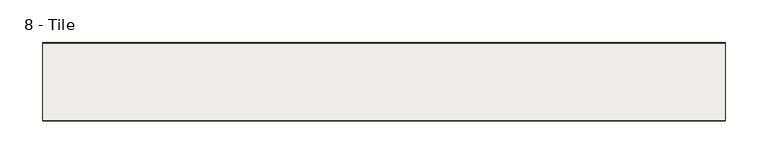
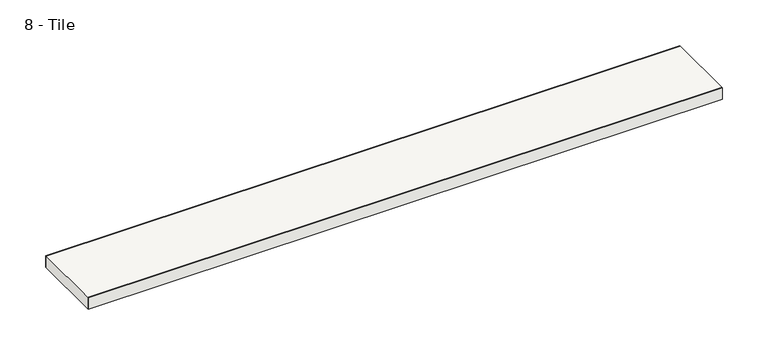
"""IFC4 building model written with IfcOpenShell, lengths in millimetres: covering geometry, Z_DO_NOT_USE_NLRS_PF_52_UN_Multi Grate_Easydrain : 8 - Tile."""

from ifc_helpers import new_model, si_unit, frame, origin, place, context, project, spatial, polyline, outline, extrude, source, transform, mapped, element, save


def covering_8_tile_f43c0e9c(model_context):
    return source(origin(), model_context, "Body", "SweptSolid", [
        extrude(outline(polyline([(399.0, 45.0), (399.0, -45.0), (-399.0, -45.0), (-399.0, 45.0), (399.0, 45.0)])), frame((0.0, 0.0, -15.0), z_axis=(0.0, 0.0, 1.0), x_axis=(1.0, 0.0, 0.0)), (0.0, 0.0, 1.0), 15.0),
        extrude(outline(polyline([(399.0, 46.0), (399.0, 45.0), (-399.0, 45.0), (-399.0, 46.0), (399.0, 46.0)])), frame((0.0, 0.0, -15.0), z_axis=(0.0, 0.0, 1.0), x_axis=(1.0, 0.0, 0.0)), (0.0, 0.0, 1.0), 15.0),
        extrude(outline(polyline([(399.0, -46.0), (-399.0, -46.0), (-399.0, -45.0), (399.0, -45.0), (399.0, -46.0)])), frame((0.0, 0.0, -15.0), z_axis=(0.0, 0.0, 1.0), x_axis=(1.0, 0.0, 0.0)), (0.0, 0.0, 1.0), 15.0),
    ])


if __name__ == "__main__":
    model = new_model("IFC4")
    model_context = context("Model", 3, world=origin())
    ifc_project = project(units=[si_unit("LENGTHUNIT", "METRE", prefix="MILLI")], contexts=[model_context])
    site = spatial("IfcSite", under=ifc_project)
    building = spatial("IfcBuilding", under=site)
    placement = place(None, origin())
    covering_8_tile_shape = covering_8_tile_f43c0e9c(model_context)
    element("IfcCovering", 1, ObjectType="Z_DO_NOT_USE_NLRS_PF_52_UN_Multi Grate_Easydrain : 8 - Tile", at=placement, inside=building, context=model_context, shape_type="MappedRepresentation", body=[
        mapped(covering_8_tile_shape, transform((0.0, 0.0, 0.0), x_axis=(1.0, 0.0, 0.0), y_axis=(0.0, 1.0, 0.0), z_axis=(0.0, 0.0, 1.0))),
    ])
    save(model, "model.ifc")
